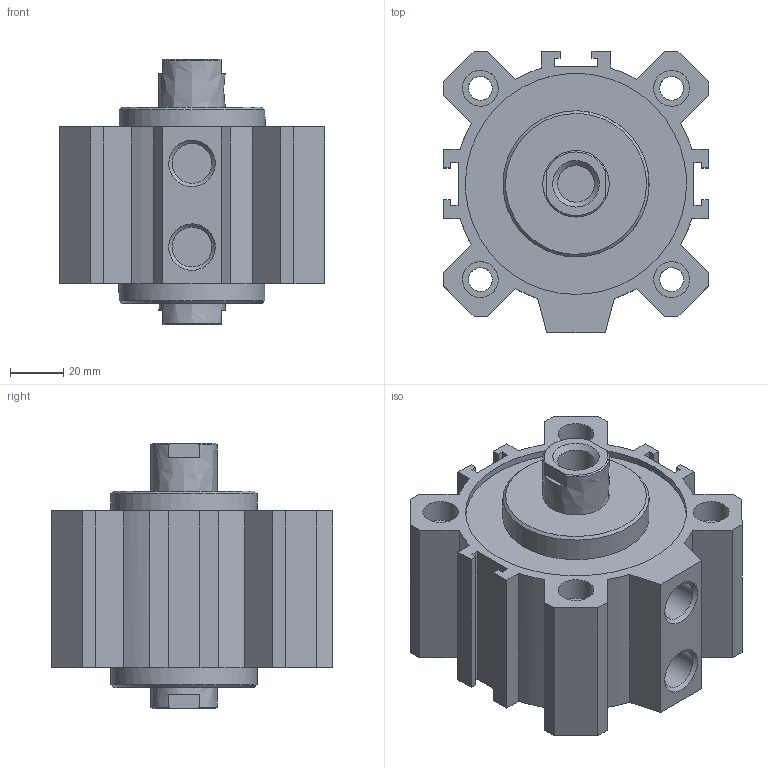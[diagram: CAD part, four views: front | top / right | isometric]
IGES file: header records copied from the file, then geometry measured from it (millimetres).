
Global section: file name: 1514_80_0010; native system: Autodesk Inventor 2014; preprocessor: unknown; author: A. Manieri; date: 20160824.142326; units: millimetre
Bounding box: 100 x 106 x 100 mm (x, y, z)
Volume: 459637.8 mm3; surface area: 102074.9 mm2
Topology: 2 solids, 2 shells, 132 faces, 346 edges, 238 vertices
Faces by surface type: bspline 132
